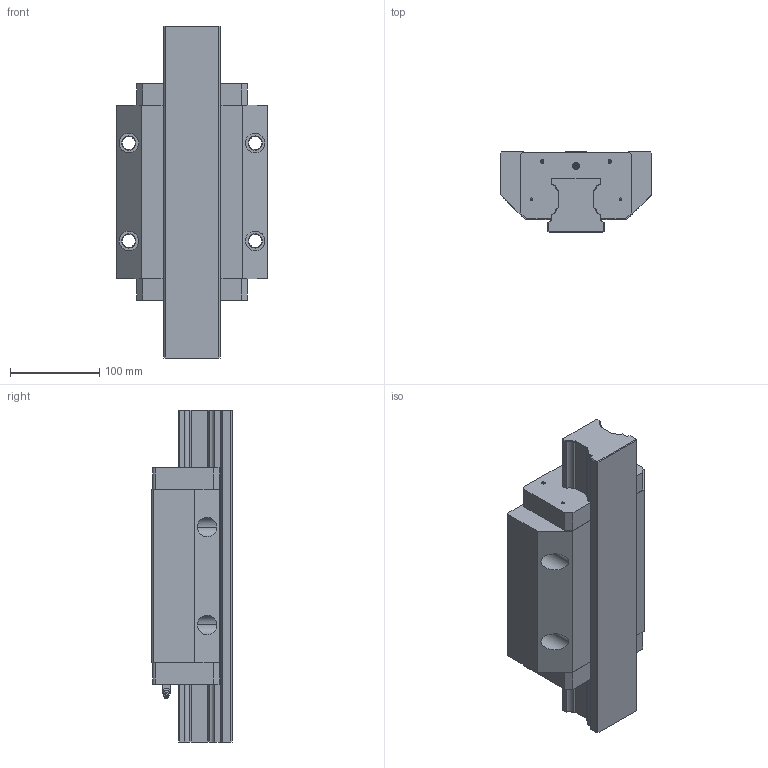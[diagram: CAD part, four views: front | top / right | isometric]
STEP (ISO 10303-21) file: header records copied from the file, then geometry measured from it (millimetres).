
FILE_DESCRIPTION((''),'2;1');
FILE_NAME('KWC_065_FLS_CS__ASM','2021-10-13T05:40:35',('ac91sw'),(''),'CREO PARAMETRIC BY PTC INC, 2020044','CREO PARAMETRIC BY PTC INC, 2020044','');
FILE_SCHEMA(('AUTOMOTIVE_DESIGN { 1 0 10303 214 1 1 1 1 }'));
Length unit declared in the file: millimetre
Products named in the file (7): KWC_065_FLS_CS__SKEL; R169860041; R160160012_Z; KWC_065_FLS_CS__PSF; R343702601_Z; R341700702_Z; KWC_065_FLS_CS__ASM
Assembly tree (7 placements, depth 2):
  KWC_065_FLS_CS__ASM
    KWC_065_FLS_CS__SKEL
    R169860041
    R160160012_Z  x2
    KWC_065_FLS_CS__PSF
    R343702601_Z
    R341700702_Z
Bounding box: 170 x 90 x 373 mm (x, y, z)
Volume: 2955388.2 mm3; surface area: 339519.7 mm2
Topology: 6 solids, 19 shells, 341 faces, 859 edges, 539 vertices
Faces by surface type: plane 177, cylinder 106, cone 54, bspline 2, sphere 2
Entity records: 14855 total; most frequent: CARTESIAN_POINT 1935, DIRECTION 1515, ORIENTED_EDGE 1362, PROPERTY_DEFINITION 820, REPRESENTATION 812, PROPERTY_DEFINITION_REPRESENTATION 812, DESCRIPTIVE_REPRESENTATION_ITEM 757, GENERAL_PROPERTY 752
